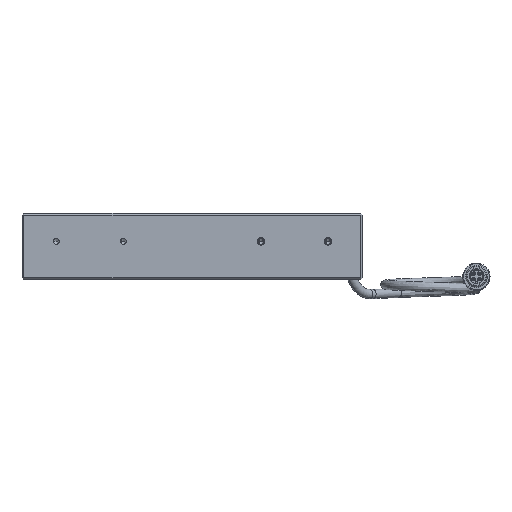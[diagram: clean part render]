
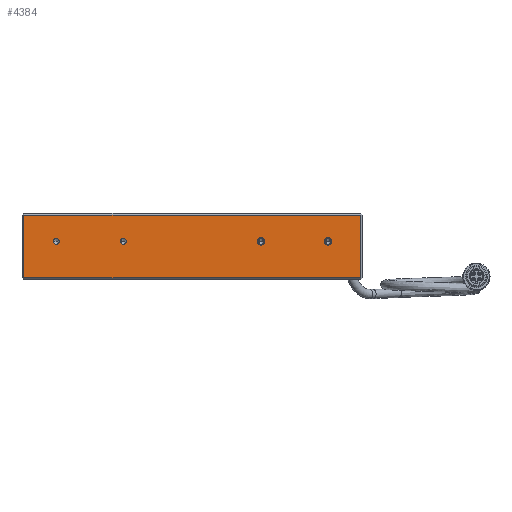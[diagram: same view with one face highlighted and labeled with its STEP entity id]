
A CAD part, top view. The second image highlights one B-rep face of the part: STEP entity #4384.
In plain terms, the highlighted planar face has unit normal (0, 0, 1).
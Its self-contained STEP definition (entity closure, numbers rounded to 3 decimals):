
#244 = EDGE_CURVE ( 'NONE', #29037, #22116, #35109, .T. ) ;
#401 = VERTEX_POINT ( 'NONE', #29925 ) ;
#829 = EDGE_CURVE ( 'NONE', #27978, #401, #34980, .T. ) ;
#1191 = EDGE_CURVE ( 'NONE', #2579, #5273, #23652, .T. ) ;
#1371 = CARTESIAN_POINT ( 'NONE',  ( -76.65, -5., 17.6 ) ) ;
#1955 = ORIENTED_EDGE ( 'NONE', *, *, #25005, .T. ) ;
#2176 = DIRECTION ( 'NONE',  ( 0., 0., -1. ) ) ;
#2535 = ORIENTED_EDGE ( 'NONE', *, *, #16968, .T. ) ;
#2579 = VERTEX_POINT ( 'NONE', #24748 ) ;
#3248 = CARTESIAN_POINT ( 'NONE',  ( 38., -5., 17.6 ) ) ;
#4354 = EDGE_LOOP ( 'NONE', ( #8898, #28774 ) ) ;
#4384 = ADVANCED_FACE ( 'NONE', ( #20529, #20331, #10802, #26674, #38808 ), #38030, .F. ) ;
#4424 = VERTEX_POINT ( 'NONE', #26868 ) ;
#4635 = AXIS2_PLACEMENT_3D ( 'NONE', #3248, #21165, #12219 ) ;
#5006 = DIRECTION ( 'NONE',  ( 0., 0., -1. ) ) ;
#5020 = DIRECTION ( 'NONE',  ( 1., 0., 0. ) ) ;
#5141 = EDGE_CURVE ( 'NONE', #401, #27978, #24957, .T. ) ;
#5146 = DIRECTION ( 'NONE',  ( -1., 0., 0. ) ) ;
#5195 = DIRECTION ( 'NONE',  ( 1., 0., 0. ) ) ;
#5197 = ORIENTED_EDGE ( 'NONE', *, *, #5699, .T. ) ;
#5249 = AXIS2_PLACEMENT_3D ( 'NONE', #8681, #23194, #17425 ) ;
#5273 = VERTEX_POINT ( 'NONE', #16193 ) ;
#5365 = EDGE_LOOP ( 'NONE', ( #5197, #2535 ) ) ;
#5699 = EDGE_CURVE ( 'NONE', #4424, #34263, #30084, .T. ) ;
#6556 = AXIS2_PLACEMENT_3D ( 'NONE', #19953, #5006, #22908 ) ;
#6585 = AXIS2_PLACEMENT_3D ( 'NONE', #10363, #37796, #5146 ) ;
#6714 = CARTESIAN_POINT ( 'NONE',  ( -93., 9.5, 17.6 ) ) ;
#6989 = AXIS2_PLACEMENT_3D ( 'NONE', #36965, #24647, #36775 ) ;
#7907 = AXIS2_PLACEMENT_3D ( 'NONE', #34554, #19821, #21002 ) ;
#8681 = CARTESIAN_POINT ( 'NONE',  ( -38., -5., 17.6 ) ) ;
#8898 = ORIENTED_EDGE ( 'NONE', *, *, #1191, .F. ) ;
#9112 = VECTOR ( 'NONE', #20020, 1000. ) ;
#9183 = AXIS2_PLACEMENT_3D ( 'NONE', #36050, #26507, #5020 ) ;
#10363 = CARTESIAN_POINT ( 'NONE',  ( 75., -5., 17.6 ) ) ;
#10802 = FACE_OUTER_BOUND ( 'NONE', #23224, .T. ) ;
#11056 = VERTEX_POINT ( 'NONE', #14997 ) ;
#11117 = ORIENTED_EDGE ( 'NONE', *, *, #21610, .T. ) ;
#11230 = CARTESIAN_POINT ( 'NONE',  ( 35.95, -5., 17.6 ) ) ;
#12219 = DIRECTION ( 'NONE',  ( -1., 0., 0. ) ) ;
#12895 = CARTESIAN_POINT ( 'NONE',  ( -73.35, -5., 17.6 ) ) ;
#12945 = LINE ( 'NONE', #34213, #29166 ) ;
#13655 = EDGE_CURVE ( 'NONE', #22116, #37685, #15298, .T. ) ;
#14185 = EDGE_CURVE ( 'NONE', #5273, #2579, #36537, .T. ) ;
#14330 = AXIS2_PLACEMENT_3D ( 'NONE', #17556, #38438, #5195 ) ;
#14439 = CARTESIAN_POINT ( 'NONE',  ( 93., 10.5, 17.6 ) ) ;
#14498 = DIRECTION ( 'NONE',  ( -1., 0., 0. ) ) ;
#14660 = EDGE_LOOP ( 'NONE', ( #15497, #39108 ) ) ;
#14997 = CARTESIAN_POINT ( 'NONE',  ( -93., -25., 17.6 ) ) ;
#15298 = LINE ( 'NONE', #18285, #29525 ) ;
#15497 = ORIENTED_EDGE ( 'NONE', *, *, #36603, .F. ) ;
#16193 = CARTESIAN_POINT ( 'NONE',  ( -39.65, -5., 17.6 ) ) ;
#16968 = EDGE_CURVE ( 'NONE', #34263, #4424, #35828, .T. ) ;
#17425 = DIRECTION ( 'NONE',  ( 1., 0., 0. ) ) ;
#17556 = CARTESIAN_POINT ( 'NONE',  ( -38., -5., 17.6 ) ) ;
#18285 = CARTESIAN_POINT ( 'NONE',  ( -94., 9.5, 17.6 ) ) ;
#19821 = DIRECTION ( 'NONE',  ( 0., 0., -1. ) ) ;
#19953 = CARTESIAN_POINT ( 'NONE',  ( -94., 10.5, 17.6 ) ) ;
#20020 = DIRECTION ( 'NONE',  ( 0., 1., 0. ) ) ;
#20331 = FACE_BOUND ( 'NONE', #4354, .T. ) ;
#20529 = FACE_BOUND ( 'NONE', #14660, .T. ) ;
#20691 = DIRECTION ( 'NONE',  ( -1., 0., 0. ) ) ;
#21002 = DIRECTION ( 'NONE',  ( -1., 0., 0. ) ) ;
#21165 = DIRECTION ( 'NONE',  ( 0., 0., -1. ) ) ;
#21610 = EDGE_CURVE ( 'NONE', #37685, #11056, #12945, .T. ) ;
#22116 = VERTEX_POINT ( 'NONE', #27976 ) ;
#22362 = ORIENTED_EDGE ( 'NONE', *, *, #829, .T. ) ;
#22908 = DIRECTION ( 'NONE',  ( -1., 0., 0. ) ) ;
#23194 = DIRECTION ( 'NONE',  ( 0., 0., 1. ) ) ;
#23224 = EDGE_LOOP ( 'NONE', ( #31329, #11117, #1955, #26202 ) ) ;
#23242 = CARTESIAN_POINT ( 'NONE',  ( 38., -5., 17.6 ) ) ;
#23449 = EDGE_LOOP ( 'NONE', ( #32811, #22362 ) ) ;
#23530 = AXIS2_PLACEMENT_3D ( 'NONE', #23242, #2176, #14498 ) ;
#23652 = CIRCLE ( 'NONE', #5249, 1.65 ) ;
#24132 = CIRCLE ( 'NONE', #6989, 1.65 ) ;
#24159 = DIRECTION ( 'NONE',  ( 1., 0., 0. ) ) ;
#24279 = VECTOR ( 'NONE', #24159, 1000. ) ;
#24647 = DIRECTION ( 'NONE',  ( 0., 0., 1. ) ) ;
#24748 = CARTESIAN_POINT ( 'NONE',  ( -36.35, -5., 17.6 ) ) ;
#24957 = CIRCLE ( 'NONE', #4635, 2.05 ) ;
#25005 = EDGE_CURVE ( 'NONE', #11056, #29037, #27162, .T. ) ;
#25902 = VERTEX_POINT ( 'NONE', #12895 ) ;
#26202 = ORIENTED_EDGE ( 'NONE', *, *, #244, .T. ) ;
#26507 = DIRECTION ( 'NONE',  ( 0., 0., 1. ) ) ;
#26674 = FACE_BOUND ( 'NONE', #23449, .T. ) ;
#26868 = CARTESIAN_POINT ( 'NONE',  ( 77.05, -5., 17.6 ) ) ;
#27162 = LINE ( 'NONE', #29346, #24279 ) ;
#27539 = CIRCLE ( 'NONE', #9183, 1.65 ) ;
#27976 = CARTESIAN_POINT ( 'NONE',  ( 93., 9.5, 17.6 ) ) ;
#27978 = VERTEX_POINT ( 'NONE', #11230 ) ;
#28774 = ORIENTED_EDGE ( 'NONE', *, *, #14185, .F. ) ;
#29037 = VERTEX_POINT ( 'NONE', #31693 ) ;
#29166 = VECTOR ( 'NONE', #34981, 1000. ) ;
#29346 = CARTESIAN_POINT ( 'NONE',  ( 94., -25., 17.6 ) ) ;
#29525 = VECTOR ( 'NONE', #20691, 1000. ) ;
#29925 = CARTESIAN_POINT ( 'NONE',  ( 40.05, -5., 17.6 ) ) ;
#30084 = CIRCLE ( 'NONE', #6585, 2.05 ) ;
#31329 = ORIENTED_EDGE ( 'NONE', *, *, #13655, .T. ) ;
#31693 = CARTESIAN_POINT ( 'NONE',  ( 93., -25., 17.6 ) ) ;
#32565 = EDGE_CURVE ( 'NONE', #37250, #25902, #24132, .T. ) ;
#32811 = ORIENTED_EDGE ( 'NONE', *, *, #5141, .T. ) ;
#34213 = CARTESIAN_POINT ( 'NONE',  ( -93., 10.5, 17.6 ) ) ;
#34263 = VERTEX_POINT ( 'NONE', #37920 ) ;
#34554 = CARTESIAN_POINT ( 'NONE',  ( 75., -5., 17.6 ) ) ;
#34980 = CIRCLE ( 'NONE', #23530, 2.05 ) ;
#34981 = DIRECTION ( 'NONE',  ( 0., -1., 0. ) ) ;
#35109 = LINE ( 'NONE', #14439, #9112 ) ;
#35828 = CIRCLE ( 'NONE', #7907, 2.05 ) ;
#36050 = CARTESIAN_POINT ( 'NONE',  ( -75., -5., 17.6 ) ) ;
#36537 = CIRCLE ( 'NONE', #14330, 1.65 ) ;
#36603 = EDGE_CURVE ( 'NONE', #25902, #37250, #27539, .T. ) ;
#36775 = DIRECTION ( 'NONE',  ( 1., 0., 0. ) ) ;
#36965 = CARTESIAN_POINT ( 'NONE',  ( -75., -5., 17.6 ) ) ;
#37250 = VERTEX_POINT ( 'NONE', #1371 ) ;
#37685 = VERTEX_POINT ( 'NONE', #6714 ) ;
#37796 = DIRECTION ( 'NONE',  ( 0., 0., -1. ) ) ;
#37920 = CARTESIAN_POINT ( 'NONE',  ( 72.95, -5., 17.6 ) ) ;
#38030 = PLANE ( 'NONE',  #6556 ) ;
#38438 = DIRECTION ( 'NONE',  ( 0., 0., 1. ) ) ;
#38808 = FACE_BOUND ( 'NONE', #5365, .T. ) ;
#39108 = ORIENTED_EDGE ( 'NONE', *, *, #32565, .F. ) ;
